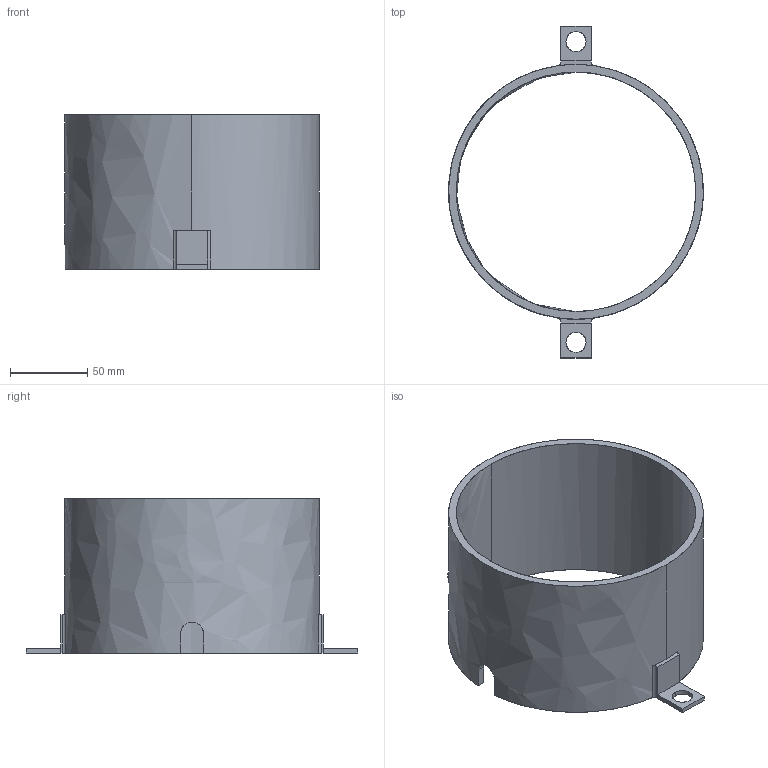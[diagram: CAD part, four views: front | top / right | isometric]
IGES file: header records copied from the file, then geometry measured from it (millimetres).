
Global section: file name: E:\UnigraphicsGraphicData\MISUMI_PRESS-PARTS\IGES\3d_ph100-100-r_07048_r00.igs; native system: NX V5.0; preprocessor: UGS NX IGES V5.0; author: MISUMI; date: 20110105.162242; units: millimetre
Bounding box: 165.2 x 215.2 x 100 mm (x, y, z)
Surface area: 110136.4 mm2 (no closed solid volume)
Topology: 0 solids, 0 shells, 41 faces, 290 edges, 290 vertices
Faces by surface type: bspline 41
